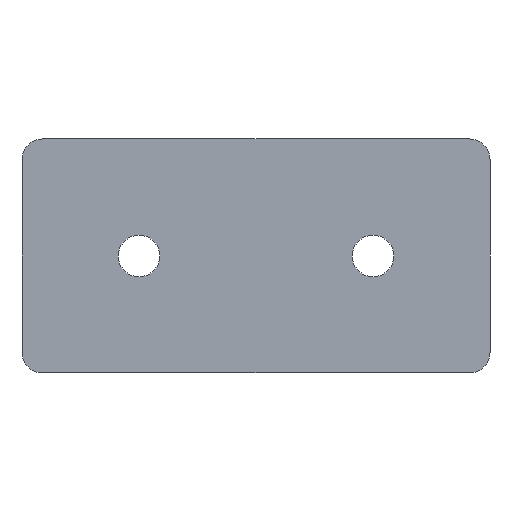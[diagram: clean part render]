
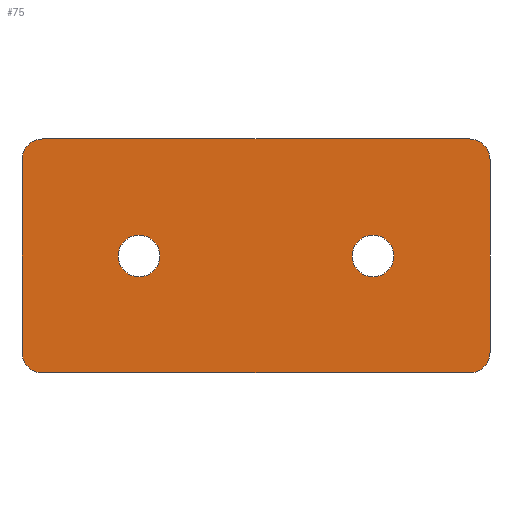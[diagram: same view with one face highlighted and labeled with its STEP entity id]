
A CAD part, front view. The second image highlights one B-rep face of the part: STEP entity #75.
In plain terms, the highlighted planar face has unit normal (0, -1, 0).
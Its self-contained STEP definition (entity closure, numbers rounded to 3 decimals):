
#75 = ADVANCED_FACE( '', ( #88, #89, #90 ), #91, .F. );
#88 = FACE_BOUND( '', #118, .T. );
#89 = FACE_BOUND( '', #119, .T. );
#90 = FACE_OUTER_BOUND( '', #120, .T. );
#91 = PLANE( '', #121 );
#118 = EDGE_LOOP( '', ( #148 ) );
#119 = EDGE_LOOP( '', ( #149 ) );
#120 = EDGE_LOOP( '', ( #150, #151, #152, #153, #154, #155, #156, #157 ) );
#121 = AXIS2_PLACEMENT_3D( '', #158, #159, #160 );
#148 = ORIENTED_EDGE( '', *, *, #240, .F. );
#149 = ORIENTED_EDGE( '', *, *, #241, .F. );
#150 = ORIENTED_EDGE( '', *, *, #242, .F. );
#151 = ORIENTED_EDGE( '', *, *, #243, .F. );
#152 = ORIENTED_EDGE( '', *, *, #244, .F. );
#153 = ORIENTED_EDGE( '', *, *, #245, .F. );
#154 = ORIENTED_EDGE( '', *, *, #246, .F. );
#155 = ORIENTED_EDGE( '', *, *, #247, .F. );
#156 = ORIENTED_EDGE( '', *, *, #248, .F. );
#157 = ORIENTED_EDGE( '', *, *, #249, .F. );
#158 = CARTESIAN_POINT( '', ( -41., 0., -18.5 ) );
#159 = DIRECTION( '', ( 0., 1., 0. ) );
#160 = DIRECTION( '', ( 0., 0., 1. ) );
#240 = EDGE_CURVE( '', #268, #268, #269, .T. );
#241 = EDGE_CURVE( '', #270, #270, #271, .T. );
#242 = EDGE_CURVE( '', #272, #273, #274, .T. );
#243 = EDGE_CURVE( '', #275, #272, #276, .T. );
#244 = EDGE_CURVE( '', #277, #275, #278, .T. );
#245 = EDGE_CURVE( '', #279, #277, #280, .T. );
#246 = EDGE_CURVE( '', #281, #279, #282, .T. );
#247 = EDGE_CURVE( '', #283, #281, #284, .T. );
#248 = EDGE_CURVE( '', #285, #283, #286, .T. );
#249 = EDGE_CURVE( '', #273, #285, #287, .T. );
#268 = VERTEX_POINT( '', #316 );
#269 = CIRCLE( '', #317, 4. );
#270 = VERTEX_POINT( '', #318 );
#271 = CIRCLE( '', #319, 4. );
#272 = VERTEX_POINT( '', #320 );
#273 = VERTEX_POINT( '', #321 );
#274 = CIRCLE( '', #322, 4. );
#275 = VERTEX_POINT( '', #323 );
#276 = LINE( '', #324, #325 );
#277 = VERTEX_POINT( '', #326 );
#278 = CIRCLE( '', #327, 4. );
#279 = VERTEX_POINT( '', #328 );
#280 = LINE( '', #329, #330 );
#281 = VERTEX_POINT( '', #331 );
#282 = CIRCLE( '', #332, 4. );
#283 = VERTEX_POINT( '', #333 );
#284 = LINE( '', #334, #335 );
#285 = VERTEX_POINT( '', #336 );
#286 = CIRCLE( '', #337, 4. );
#287 = LINE( '', #338, #339 );
#316 = CARTESIAN_POINT( '', ( -22.5, 0., -4. ) );
#317 = AXIS2_PLACEMENT_3D( '', #380, #381, #382 );
#318 = CARTESIAN_POINT( '', ( 22.5, 0., -4. ) );
#319 = AXIS2_PLACEMENT_3D( '', #383, #384, #385 );
#320 = CARTESIAN_POINT( '', ( -41., 0., -22.5 ) );
#321 = CARTESIAN_POINT( '', ( -45., 0., -18.5 ) );
#322 = AXIS2_PLACEMENT_3D( '', #386, #387, #388 );
#323 = CARTESIAN_POINT( '', ( 41., 0., -22.5 ) );
#324 = CARTESIAN_POINT( '', ( 41., 0., -22.5 ) );
#325 = VECTOR( '', #389, 1000. );
#326 = CARTESIAN_POINT( '', ( 45., 0., -18.5 ) );
#327 = AXIS2_PLACEMENT_3D( '', #390, #391, #392 );
#328 = CARTESIAN_POINT( '', ( 45., 0., 18.5 ) );
#329 = CARTESIAN_POINT( '', ( 45., 0., 18.5 ) );
#330 = VECTOR( '', #393, 1000. );
#331 = CARTESIAN_POINT( '', ( 41., 0., 22.5 ) );
#332 = AXIS2_PLACEMENT_3D( '', #394, #395, #396 );
#333 = CARTESIAN_POINT( '', ( -41., 0., 22.5 ) );
#334 = CARTESIAN_POINT( '', ( -41., 0., 22.5 ) );
#335 = VECTOR( '', #397, 1000. );
#336 = CARTESIAN_POINT( '', ( -45., 0., 18.5 ) );
#337 = AXIS2_PLACEMENT_3D( '', #398, #399, #400 );
#338 = CARTESIAN_POINT( '', ( -45., 0., -18.5 ) );
#339 = VECTOR( '', #401, 1000. );
#380 = CARTESIAN_POINT( '', ( -22.5, 0., 0. ) );
#381 = DIRECTION( '', ( 0., -1., 0. ) );
#382 = DIRECTION( '', ( 0., 0., -1. ) );
#383 = CARTESIAN_POINT( '', ( 22.5, 0., 0. ) );
#384 = DIRECTION( '', ( 0., -1., 0. ) );
#385 = DIRECTION( '', ( 0., 0., -1. ) );
#386 = CARTESIAN_POINT( '', ( -41., 0., -18.5 ) );
#387 = DIRECTION( '', ( 0., 1., 0. ) );
#388 = DIRECTION( '', ( 1., 0., 0. ) );
#389 = DIRECTION( '', ( -1., 0., 0. ) );
#390 = CARTESIAN_POINT( '', ( 41., 0., -18.5 ) );
#391 = DIRECTION( '', ( 0., 1., 0. ) );
#392 = DIRECTION( '', ( 1., 0., 0. ) );
#393 = DIRECTION( '', ( 0., 0., -1. ) );
#394 = CARTESIAN_POINT( '', ( 41., 0., 18.5 ) );
#395 = DIRECTION( '', ( 0., 1., 0. ) );
#396 = DIRECTION( '', ( 1., 0., 0. ) );
#397 = DIRECTION( '', ( 1., 0., 0. ) );
#398 = CARTESIAN_POINT( '', ( -41., 0., 18.5 ) );
#399 = DIRECTION( '', ( 0., 1., 0. ) );
#400 = DIRECTION( '', ( 1., 0., 0. ) );
#401 = DIRECTION( '', ( 0., 0., 1. ) );
